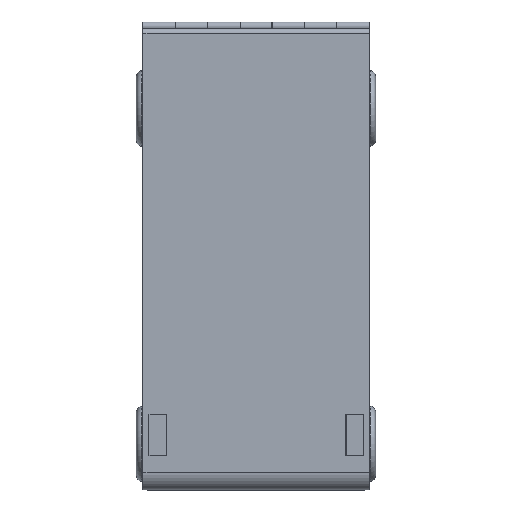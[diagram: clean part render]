
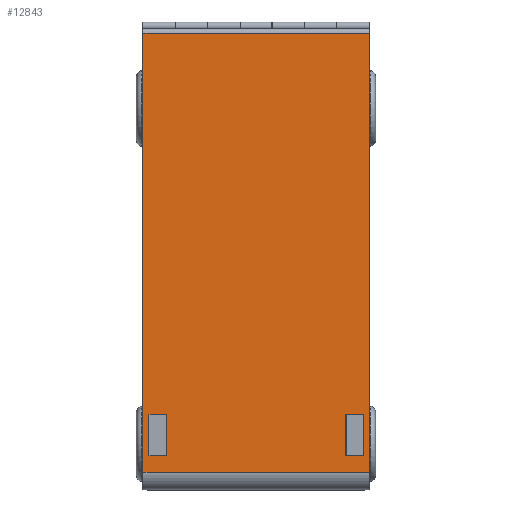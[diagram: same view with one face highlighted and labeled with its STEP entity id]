
A CAD part, top view. The second image highlights one B-rep face of the part: STEP entity #12843.
In plain terms, the highlighted planar face has unit normal (0, 0, 1).
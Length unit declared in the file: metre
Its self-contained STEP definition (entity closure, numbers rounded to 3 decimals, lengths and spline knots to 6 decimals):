
#505=CIRCLE('',#14752,0.00175);
#507=CIRCLE('',#14757,0.00175);
#509=CIRCLE('',#14761,0.00175);
#511=CIRCLE('',#14764,0.00175);
#1336=ORIENTED_EDGE('',*,*,#5029,.F.);
#1337=ORIENTED_EDGE('',*,*,#5031,.T.);
#1338=ORIENTED_EDGE('',*,*,#5023,.T.);
#1339=ORIENTED_EDGE('',*,*,#5026,.T.);
#1340=ORIENTED_EDGE('',*,*,#5019,.F.);
#1341=ORIENTED_EDGE('',*,*,#5033,.T.);
#1342=ORIENTED_EDGE('',*,*,#5013,.T.);
#1343=ORIENTED_EDGE('',*,*,#5016,.T.);
#1344=ORIENTED_EDGE('',*,*,#5009,.T.);
#1345=ORIENTED_EDGE('',*,*,#5034,.T.);
#1346=ORIENTED_EDGE('',*,*,#5005,.F.);
#1347=ORIENTED_EDGE('',*,*,#5035,.T.);
#5005=EDGE_CURVE('',#6858,#6856,#8013,.T.);
#5009=EDGE_CURVE('',#6860,#6862,#8017,.T.);
#5013=EDGE_CURVE('',#6864,#6866,#8021,.T.);
#5016=EDGE_CURVE('',#6866,#6868,#505,.F.);
#5019=EDGE_CURVE('',#6870,#6868,#8025,.T.);
#5023=EDGE_CURVE('',#6872,#6874,#8029,.T.);
#5026=EDGE_CURVE('',#6874,#6876,#507,.F.);
#5029=EDGE_CURVE('',#6878,#6876,#8033,.T.);
#5031=EDGE_CURVE('',#6878,#6872,#509,.F.);
#5033=EDGE_CURVE('',#6870,#6864,#511,.F.);
#5034=EDGE_CURVE('',#6862,#6856,#8034,.T.);
#5035=EDGE_CURVE('',#6858,#6860,#8035,.T.);
#6856=VERTEX_POINT('',#19988);
#6858=VERTEX_POINT('',#19992);
#6860=VERTEX_POINT('',#19997);
#6862=VERTEX_POINT('',#20001);
#6864=VERTEX_POINT('',#20006);
#6866=VERTEX_POINT('',#20010);
#6868=VERTEX_POINT('',#20016);
#6870=VERTEX_POINT('',#20022);
#6872=VERTEX_POINT('',#20027);
#6874=VERTEX_POINT('',#20031);
#6876=VERTEX_POINT('',#20037);
#6878=VERTEX_POINT('',#20043);
#8013=LINE('',#19993,#9201);
#8017=LINE('',#20002,#9205);
#8021=LINE('',#20011,#9209);
#8025=LINE('',#20023,#9213);
#8029=LINE('',#20032,#9217);
#8033=LINE('',#20044,#9221);
#8034=LINE('',#20052,#9222);
#8035=LINE('',#20053,#9223);
#9201=VECTOR('',#16103,1.);
#9205=VECTOR('',#16109,1.);
#9209=VECTOR('',#16115,1.);
#9213=VECTOR('',#16127,1.);
#9217=VECTOR('',#16133,1.);
#9221=VECTOR('',#16145,1.);
#9222=VECTOR('',#16160,1.);
#9223=VECTOR('',#16161,1.);
#10396=EDGE_LOOP('',(#1336,#1337,#1338,#1339));
#10397=EDGE_LOOP('',(#1340,#1341,#1342,#1343));
#10398=EDGE_LOOP('',(#1344,#1345,#1346,#1347));
#11380=FACE_BOUND('',#10396,.T.);
#11381=FACE_BOUND('',#10397,.T.);
#11382=FACE_BOUND('',#10398,.T.);
#12364=PLANE('',#14765);
#12843=ADVANCED_FACE('',(#11380,#11381,#11382),#12364,.T.);
#14752=AXIS2_PLACEMENT_3D('',#20017,#16121,#16122);
#14757=AXIS2_PLACEMENT_3D('',#20038,#16139,#16140);
#14761=AXIS2_PLACEMENT_3D('',#20047,#16150,#16151);
#14764=AXIS2_PLACEMENT_3D('',#20050,#16156,#16157);
#14765=AXIS2_PLACEMENT_3D('',#20051,#16158,#16159);
#16103=DIRECTION('',(0.,1.,0.));
#16109=DIRECTION('',(0.,1.,0.));
#16115=DIRECTION('',(0.,1.,0.));
#16121=DIRECTION('',(0.,0.,1.));
#16122=DIRECTION('',(1.,0.,0.));
#16127=DIRECTION('',(0.,1.,0.));
#16133=DIRECTION('',(0.,1.,0.));
#16139=DIRECTION('',(0.,0.,1.));
#16140=DIRECTION('',(1.,0.,0.));
#16145=DIRECTION('',(0.,1.,0.));
#16150=DIRECTION('',(0.,0.,1.));
#16151=DIRECTION('',(1.,0.,0.));
#16156=DIRECTION('',(0.,0.,1.));
#16157=DIRECTION('',(1.,0.,0.));
#16158=DIRECTION('',(0.,0.,1.));
#16159=DIRECTION('',(1.,0.,0.));
#16160=DIRECTION('',(-1.,0.,0.));
#16161=DIRECTION('',(1.,0.,0.));
#19988=CARTESIAN_POINT('',(-0.075,0.14905,0.062877));
#19992=CARTESIAN_POINT('',(-0.075,-0.14205,0.062877));
#19993=CARTESIAN_POINT('',(-0.075,-0.15195,0.062877));
#19997=CARTESIAN_POINT('',(0.075,-0.14205,0.062877));
#20001=CARTESIAN_POINT('',(0.075,0.14905,0.062877));
#20002=CARTESIAN_POINT('',(0.075,-0.15195,0.062877));
#20006=CARTESIAN_POINT('',(0.063575,-0.10635,0.062877));
#20010=CARTESIAN_POINT('',(0.063575,-0.10555,0.062877));
#20011=CARTESIAN_POINT('',(0.063575,-0.15195,0.062877));
#20016=CARTESIAN_POINT('',(0.067075,-0.10555,0.062877));
#20017=CARTESIAN_POINT('',(0.065325,-0.10555,0.062877));
#20022=CARTESIAN_POINT('',(0.067075,-0.10635,0.062877));
#20023=CARTESIAN_POINT('',(0.067075,-0.15195,0.062877));
#20027=CARTESIAN_POINT('',(-0.067075,-0.10635,0.062877));
#20031=CARTESIAN_POINT('',(-0.067075,-0.10555,0.062877));
#20032=CARTESIAN_POINT('',(-0.067075,-0.15195,0.062877));
#20037=CARTESIAN_POINT('',(-0.063575,-0.10555,0.062877));
#20038=CARTESIAN_POINT('',(-0.065325,-0.10555,0.062877));
#20043=CARTESIAN_POINT('',(-0.063575,-0.10635,0.062877));
#20044=CARTESIAN_POINT('',(-0.063575,-0.15195,0.062877));
#20047=CARTESIAN_POINT('',(-0.065325,-0.10635,0.062877));
#20050=CARTESIAN_POINT('',(0.065325,-0.10635,0.062877));
#20051=CARTESIAN_POINT('',(0.,-0.15195,0.062877));
#20052=CARTESIAN_POINT('',(0.,0.14905,0.062877));
#20053=CARTESIAN_POINT('',(0.,-0.14205,0.062877));
